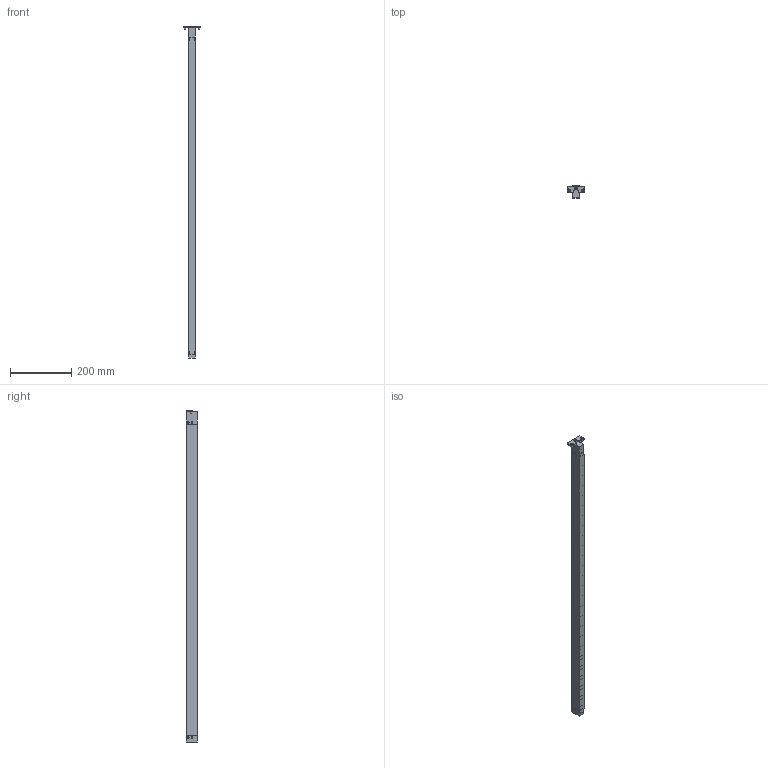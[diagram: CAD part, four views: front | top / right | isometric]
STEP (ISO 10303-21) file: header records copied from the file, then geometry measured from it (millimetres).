
FILE_DESCRIPTION(/* description */ (''),/* implementation_level */ '2;1');
FILE_NAME(/* name */ 'S:\EASCN Vault\Designs\Standard Part\DIE LIFTERS\EHB\EHB- 3D step\EHB22 - 3D step complete serie\EHB 22-26.stp',/* time_stamp */ '2019-11-21T14:50:20+08:00',/* author */ ('yue.yang'),/* organization */ (''),/* preprocessor_version */ 'ST-DEVELOPER v17',/* originating_system */ 'Autodesk Inventor 2019',/* authorisation */ '');
FILE_SCHEMA (('AUTOMOTIVE_DESIGN { 1 0 10303 214 3 1 1 }'));
Length unit declared in the file: millimetre
Products named in the file (1): EHB 22-26_Shrinkwrap_1
Bounding box: 58 x 37.8 x 1086 mm (x, y, z)
Volume: 698970.2 mm3; surface area: 272589.9 mm2
Topology: 90 solids, 90 shells, 863 faces, 2383 edges, 1727 vertices
Faces by surface type: plane 300, cylinder 274, cone 133, torus 130, sphere 26
Full cylindrical faces by diameter (mm): 3 x2, 4.134 x1, 5 x15, 5.5 x4, 6 x27, 6.647 x1, 8 x1, 10 x6, 12.2 x26, 16 x26, 16.4 x26, 17.05 x26, 19.05 x26, 19.2 x26
Entity records: 32466 total; most frequent: CARTESIAN_POINT 8125, DIRECTION 5315, ORIENTED_EDGE 4600, AXIS2_PLACEMENT_3D 2365, EDGE_CURVE 2300, VERTEX_POINT 1727, CIRCLE 1499, EDGE_LOOP 1111
